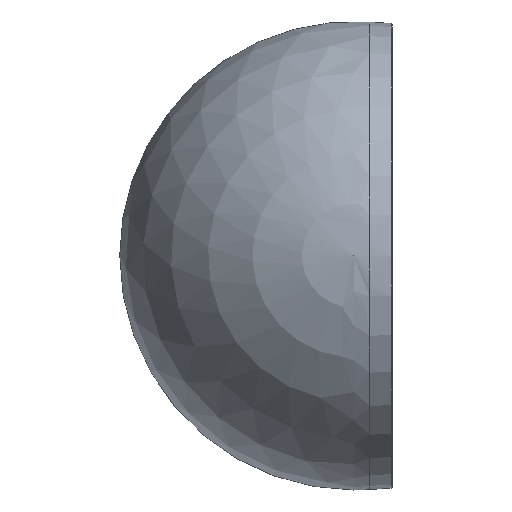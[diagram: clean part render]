
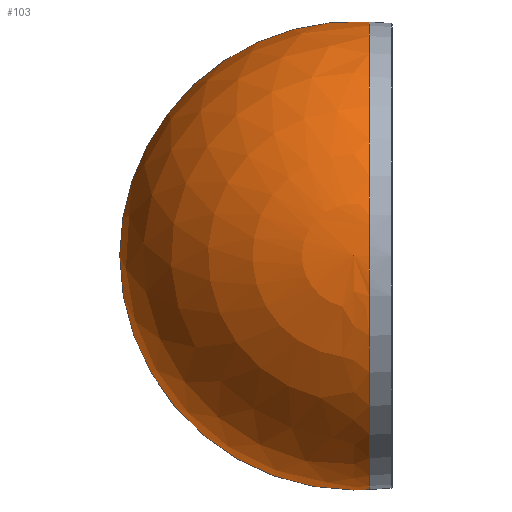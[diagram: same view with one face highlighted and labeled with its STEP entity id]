
A CAD part, left-side view. The second image highlights one B-rep face of the part: STEP entity #103.
In plain terms, the highlighted spherical face has radius 34.9 mm.
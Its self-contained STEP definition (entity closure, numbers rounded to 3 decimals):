
#103 = ADVANCED_FACE('',(#104),#156,.T.);
#104 = FACE_BOUND('',#105,.T.);
#105 = EDGE_LOOP('',(#106,#117,#126,#135,#148,#149));
#106 = ORIENTED_EDGE('',*,*,#107,.F.);
#107 = EDGE_CURVE('',#108,#110,#112,.T.);
#108 = VERTEX_POINT('',#109);
#109 = CARTESIAN_POINT('',(0.,20.704,34.824));
#110 = VERTEX_POINT('',#111);
#111 = CARTESIAN_POINT('',(0.,20.704,
    -34.824));
#112 = CIRCLE('',#113,34.824);
#113 = AXIS2_PLACEMENT_3D('',#114,#115,#116);
#114 = CARTESIAN_POINT('',(0.,20.704,0.));
#115 = DIRECTION('',(0.,-1.,0.));
#116 = DIRECTION('',(0.,0.,1.));
#117 = ORIENTED_EDGE('',*,*,#118,.T.);
#118 = EDGE_CURVE('',#108,#119,#121,.T.);
#119 = VERTEX_POINT('',#120);
#120 = CARTESIAN_POINT('',(0.,57.9,0.));
#121 = CIRCLE('',#122,34.9);
#122 = AXIS2_PLACEMENT_3D('',#123,#124,#125);
#123 = CARTESIAN_POINT('',(0.,23.,0.));
#124 = DIRECTION('',(-1.,0.,0.));
#125 = DIRECTION('',(0.,0.,1.));
#126 = ORIENTED_EDGE('',*,*,#127,.F.);
#127 = EDGE_CURVE('',#128,#119,#130,.T.);
#128 = VERTEX_POINT('',#129);
#129 = CARTESIAN_POINT('',(0.,23.,-34.9));
#130 = CIRCLE('',#131,34.9);
#131 = AXIS2_PLACEMENT_3D('',#132,#133,#134);
#132 = CARTESIAN_POINT('',(0.,23.,0.));
#133 = DIRECTION('',(1.,0.,0.));
#134 = DIRECTION('',(0.,0.,-1.));
#135 = ORIENTED_EDGE('',*,*,#136,.T.);
#136 = EDGE_CURVE('',#128,#137,#139,.T.);
#137 = VERTEX_POINT('',#138);
#138 = CARTESIAN_POINT('',(-34.9,23.,0.));
#139 = B_SPLINE_CURVE_WITH_KNOTS('',7,(#140,#141,#142,#143,#144,#145,
    #146,#147),.UNSPECIFIED.,.F.,.F.,(8,8),(0.,1.571),
  .PIECEWISE_BEZIER_KNOTS.);
#140 = CARTESIAN_POINT('',(0.,23.,-34.9));
#141 = CARTESIAN_POINT('',(-7.832,23.,-34.9));
#142 = CARTESIAN_POINT('',(-15.663,23.,
    -32.85));
#143 = CARTESIAN_POINT('',(-22.851,23.,
    -28.749));
#144 = CARTESIAN_POINT('',(-28.749,23.,
    -22.851));
#145 = CARTESIAN_POINT('',(-32.85,23.,
    -15.663));
#146 = CARTESIAN_POINT('',(-34.9,23.,-7.832));
#147 = CARTESIAN_POINT('',(-34.9,23.,0.));
#148 = ORIENTED_EDGE('',*,*,#136,.F.);
#149 = ORIENTED_EDGE('',*,*,#150,.F.);
#150 = EDGE_CURVE('',#110,#128,#151,.T.);
#151 = CIRCLE('',#152,34.9);
#152 = AXIS2_PLACEMENT_3D('',#153,#154,#155);
#153 = CARTESIAN_POINT('',(0.,23.,0.));
#154 = DIRECTION('',(1.,0.,0.));
#155 = DIRECTION('',(0.,0.,-1.));
#156 = SPHERICAL_SURFACE('',#157,34.9);
#157 = AXIS2_PLACEMENT_3D('',#158,#159,#160);
#158 = CARTESIAN_POINT('',(0.,23.,0.));
#159 = DIRECTION('',(-1.,0.,0.));
#160 = DIRECTION('',(0.,0.,-1.));
